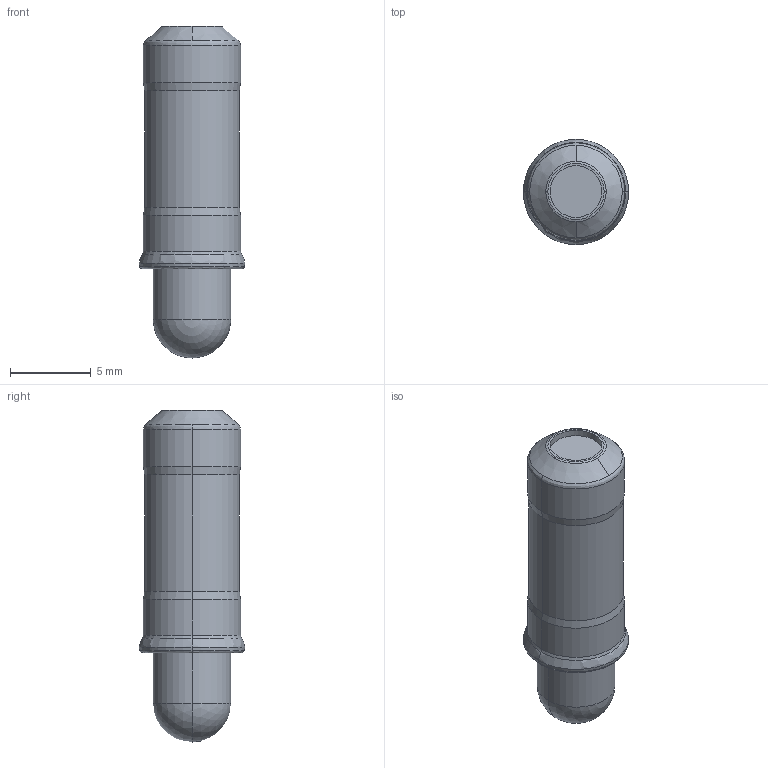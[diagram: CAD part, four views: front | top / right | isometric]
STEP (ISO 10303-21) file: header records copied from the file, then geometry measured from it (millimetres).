
FILE_DESCRIPTION (( 'STEP AP203' ), '1' );
FILE_NAME ('ssps6.STEP', '2021-10-25T04:29:57', ( '' ), ( '' ), 'SwSTEP 2.0', 'SolidWorks 2020', '' );
FILE_SCHEMA (( 'CONFIG_CONTROL_DESIGN' ));
Length unit declared in the file: millimetre
Products named in the file (1): ssps6
Bounding box: 6.5 x 6.5 x 20.5 mm (x, y, z)
Volume: 488.9 mm3; surface area: 395.9 mm2
Topology: 1 solids, 1 shells, 33 faces, 72 edges, 41 vertices
Faces by surface type: bspline 12, cylinder 10, cone 6, plane 3, sphere 2
Entity records: 1087 total; most frequent: CARTESIAN_POINT 333, DIRECTION 156, ORIENTED_EDGE 136, AXIS2_PLACEMENT_3D 70, EDGE_CURVE 68, CIRCLE 48, VERTEX_POINT 39, EDGE_LOOP 35
